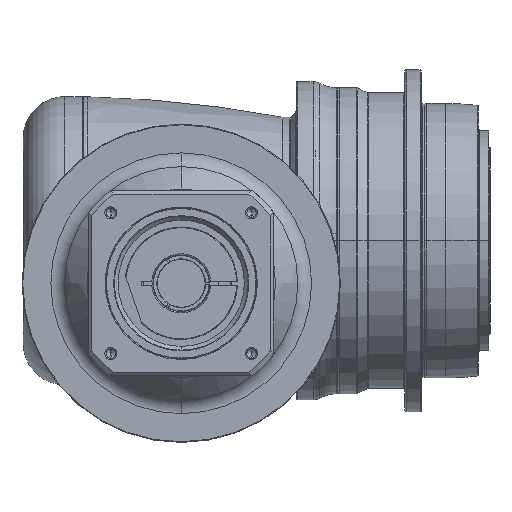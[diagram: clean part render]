
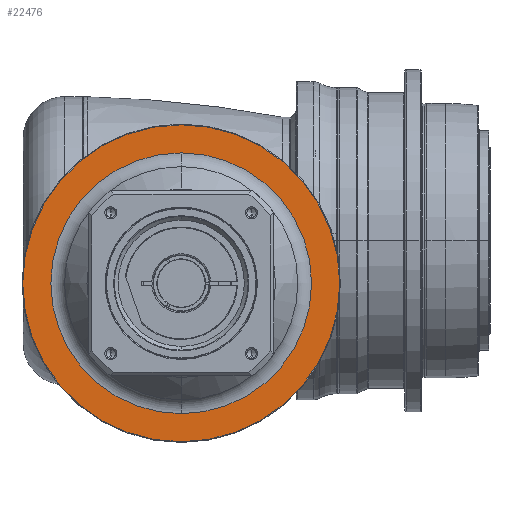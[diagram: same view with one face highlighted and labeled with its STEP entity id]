
A CAD part, front view. The second image highlights one B-rep face of the part: STEP entity #22476.
In plain terms, the highlighted planar face has unit normal (0, -1, 0) as drawn and (1, 0, 0) by its records, which use the part's own axes.
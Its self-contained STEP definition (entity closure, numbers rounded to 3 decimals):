
#20244=CARTESIAN_POINT('',(-33.5,0.,0.));
#20245=DIRECTION('',(1.,0.,0.));
#20246=DIRECTION('',(0.,1.,0.));
#20247=AXIS2_PLACEMENT_3D('',#20244,#20245,#20246);
#20249=CARTESIAN_POINT('',(-33.5,0.,0.));
#20250=DIRECTION('',(1.,0.,0.));
#20251=DIRECTION('',(0.,-1.,0.));
#20252=AXIS2_PLACEMENT_3D('',#20249,#20250,#20251);
#20254=CARTESIAN_POINT('',(-33.5,0.,0.));
#20255=DIRECTION('',(-1.,0.,0.));
#20256=DIRECTION('',(0.,-1.,0.));
#20257=AXIS2_PLACEMENT_3D('',#20254,#20255,#20256);
#20259=CARTESIAN_POINT('',(-33.5,0.,0.));
#20260=DIRECTION('',(-1.,0.,0.));
#20261=DIRECTION('',(0.,1.,0.));
#20262=AXIS2_PLACEMENT_3D('',#20259,#20260,#20261);
#21059=CARTESIAN_POINT('',(-33.5,-115.5,0.));
#21060=CARTESIAN_POINT('',(-33.5,115.5,0.));
#21061=VERTEX_POINT('',#21059);
#21062=VERTEX_POINT('',#21060);
#21243=CARTESIAN_POINT('',(-33.5,95.,0.));
#21244=VERTEX_POINT('',#21243);
#21245=CARTESIAN_POINT('',(-33.5,-95.,0.));
#21246=VERTEX_POINT('',#21245);
#22461=CARTESIAN_POINT('',(-33.5,0.,0.));
#22462=DIRECTION('',(1.,0.,0.));
#22463=DIRECTION('',(0.,-1.,0.));
#22464=AXIS2_PLACEMENT_3D('',#22461,#22462,#22463);
#22465=PLANE('',#22464);
#22466=ORIENTED_EDGE('',*,*,#22417,.T.);
#22467=ORIENTED_EDGE('',*,*,#22402,.T.);
#22468=EDGE_LOOP('',(#22466,#22467));
#22469=FACE_OUTER_BOUND('',#22468,.F.);
#22471=ORIENTED_EDGE('',*,*,#22470,.T.);
#22473=ORIENTED_EDGE('',*,*,#22472,.T.);
#22474=EDGE_LOOP('',(#22471,#22473));
#22475=FACE_BOUND('',#22474,.F.);
#22476=ADVANCED_FACE('',(#22469,#22475),#22465,.T.);
#20248=CIRCLE('',#20247,95.);
#20253=CIRCLE('',#20252,95.);
#20258=CIRCLE('',#20257,115.5);
#20263=CIRCLE('',#20262,115.5);
#22402=EDGE_CURVE('',#21062,#21061,#20263,.T.);
#22417=EDGE_CURVE('',#21061,#21062,#20258,.T.);
#22470=EDGE_CURVE('',#21244,#21246,#20248,.T.);
#22472=EDGE_CURVE('',#21246,#21244,#20253,.T.);
